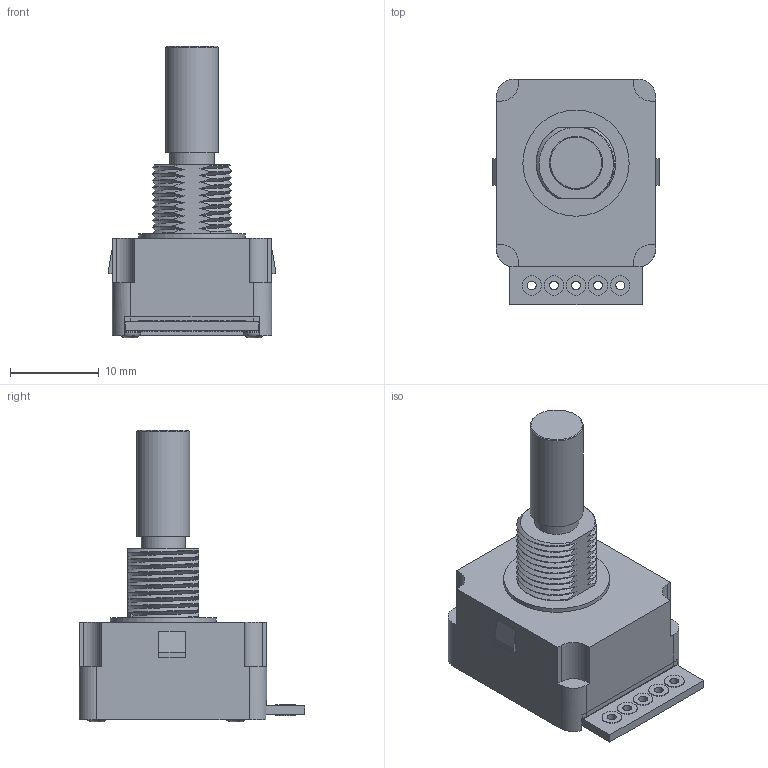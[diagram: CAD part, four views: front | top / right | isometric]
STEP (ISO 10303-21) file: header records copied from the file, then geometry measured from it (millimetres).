
FILE_DESCRIPTION (( 'STEP AP214' ), '1' );
FILE_NAME ('MRTC25.STEP', '2019-05-22T14:06:33', ( '' ), ( '' ), 'SwSTEP 2.0', 'SolidWorks 2017', '' );
FILE_SCHEMA (( 'AUTOMOTIVE_DESIGN' ));
Length unit declared in the file: millimetre
Products named in the file (7): M1,3 - SchraubeMRTc25; KeilMRTc25; WelleMRTc25; PlastikZwischenlageMRTc25; PlatineMRTc25; GehäuseMRTc25; MRTC25
Assembly tree (10 placements, depth 2):
  MRTC25
    GehäuseMRTc25
    WelleMRTc25
    PlatineMRTc25
    PlastikZwischenlageMRTc25
    KeilMRTc25  x2
    M1,3 - SchraubeMRTc25  x4
Bounding box: 18.8 x 25.51 x 32.94 mm (x, y, z)
Volume: 3216.5 mm3; surface area: 4767.6 mm2
Topology: 10 solids, 10 shells, 456 faces, 1200 edges, 797 vertices
Faces by surface type: plane 214, cylinder 145, bspline 88, torus 8, cone 1
Full cylindrical faces by diameter (mm): 1 x5, 1.3 x72, 2.2 x10, 2.4 x4, 5 x2, 6 x1, 12 x1
Entity records: 31852 total; most frequent: CARTESIAN_POINT 23592, ORIENTED_EDGE 1522, DIRECTION 1106, EDGE_CURVE 761, VERTEX_POINT 521, VECTOR 430, LINE 430, EDGE_LOOP 366
